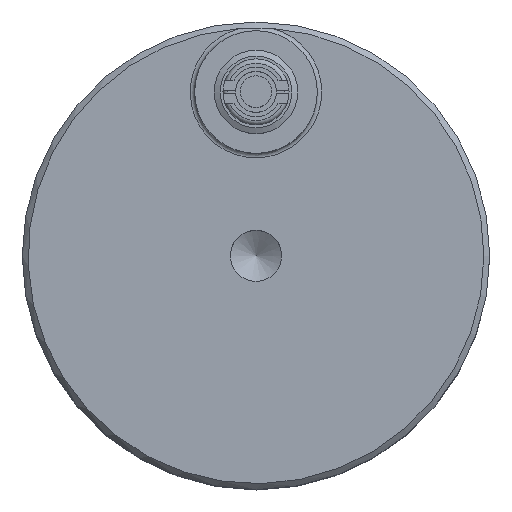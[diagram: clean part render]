
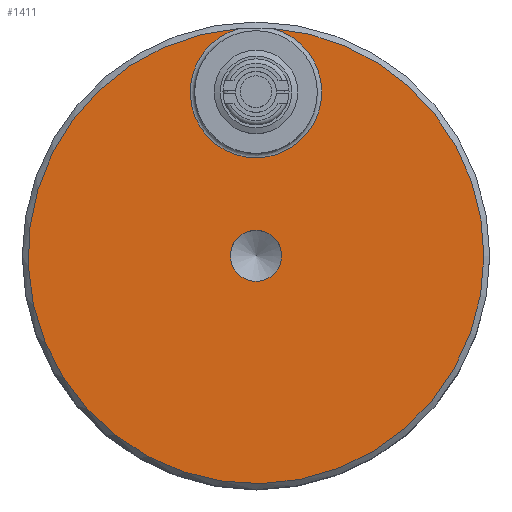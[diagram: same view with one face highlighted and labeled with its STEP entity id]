
A CAD part, top view. The second image highlights one B-rep face of the part: STEP entity #1411.
In plain terms, the highlighted planar face has unit normal (0, 0, 1).
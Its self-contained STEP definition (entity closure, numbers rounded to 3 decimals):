
#126=FACE_BOUND('',#463,.T.);
#358=FACE_OUTER_BOUND('',#462,.T.);
#462=EDGE_LOOP('',(#1091,#1092,#1093,#1094));
#463=EDGE_LOOP('',(#1095));
#572=CIRCLE('',#1588,22.5);
#573=CIRCLE('',#1589,22.5);
#574=CIRCLE('',#1591,78.);
#575=CIRCLE('',#1592,78.);
#576=CIRCLE('',#1593,8.76);
#679=VERTEX_POINT('',#2435);
#680=VERTEX_POINT('',#2437);
#681=VERTEX_POINT('',#2439);
#682=VERTEX_POINT('',#2460);
#683=VERTEX_POINT('',#2463);
#829=EDGE_CURVE('',#679,#680,#572,.T.);
#831=EDGE_CURVE('',#681,#679,#573,.T.);
#832=EDGE_CURVE('',#682,#681,#574,.T.);
#833=EDGE_CURVE('',#680,#682,#575,.T.);
#834=EDGE_CURVE('',#683,#683,#576,.T.);
#1091=ORIENTED_EDGE('',*,*,#831,.F.);
#1092=ORIENTED_EDGE('',*,*,#832,.F.);
#1093=ORIENTED_EDGE('',*,*,#833,.F.);
#1094=ORIENTED_EDGE('',*,*,#829,.F.);
#1095=ORIENTED_EDGE('',*,*,#834,.T.);
#1346=PLANE('',#1590);
#1411=ADVANCED_FACE('',(#358,#126),#1346,.T.);
#1588=AXIS2_PLACEMENT_3D('',#2438,#1906,#1907);
#1589=AXIS2_PLACEMENT_3D('',#2458,#1908,#1909);
#1590=AXIS2_PLACEMENT_3D('',#2459,#1910,#1911);
#1591=AXIS2_PLACEMENT_3D('',#2461,#1912,#1913);
#1592=AXIS2_PLACEMENT_3D('',#2462,#1914,#1915);
#1593=AXIS2_PLACEMENT_3D('',#2464,#1916,#1917);
#1906=DIRECTION('center_axis',(0.,0.,1.));
#1907=DIRECTION('ref_axis',(-1.,0.,0.));
#1908=DIRECTION('center_axis',(0.,0.,1.));
#1909=DIRECTION('ref_axis',(-1.,0.,0.));
#1910=DIRECTION('center_axis',(0.,0.,1.));
#1911=DIRECTION('ref_axis',(1.,0.,0.));
#1912=DIRECTION('center_axis',(0.,0.,-1.));
#1913=DIRECTION('ref_axis',(-1.,0.,0.));
#1914=DIRECTION('center_axis',(0.,0.,-1.));
#1915=DIRECTION('ref_axis',(-1.,0.,0.));
#1916=DIRECTION('center_axis',(0.,0.,-1.));
#1917=DIRECTION('ref_axis',(1.,0.,0.));
#2435=CARTESIAN_POINT('',(22.5,56.,90.));
#2437=CARTESIAN_POINT('',(5.563,77.801,90.));
#2438=CARTESIAN_POINT('Origin',(0.,56.,90.));
#2439=CARTESIAN_POINT('',(-5.563,77.801,90.));
#2458=CARTESIAN_POINT('Origin',(0.,56.,90.));
#2459=CARTESIAN_POINT('Origin',(0.,0.,90.));
#2460=CARTESIAN_POINT('',(78.,0.,90.));
#2461=CARTESIAN_POINT('Origin',(0.,0.,90.));
#2462=CARTESIAN_POINT('Origin',(0.,0.,90.));
#2463=CARTESIAN_POINT('',(-8.76,0.,90.));
#2464=CARTESIAN_POINT('Origin',(0.,0.,90.));
